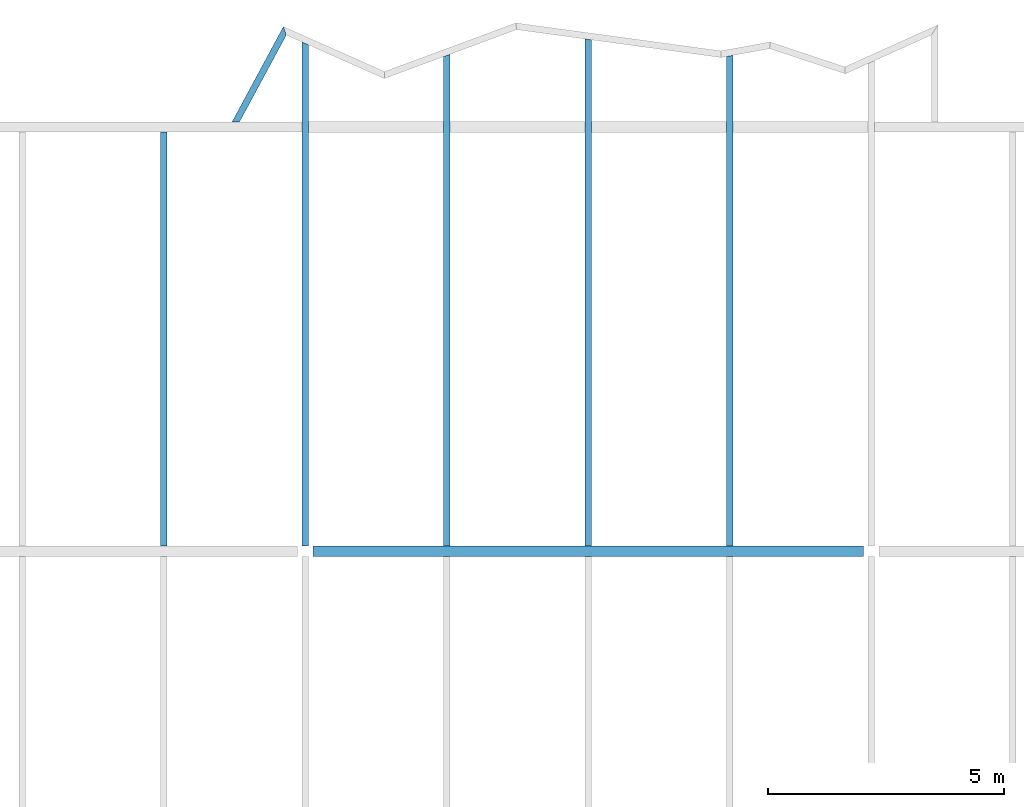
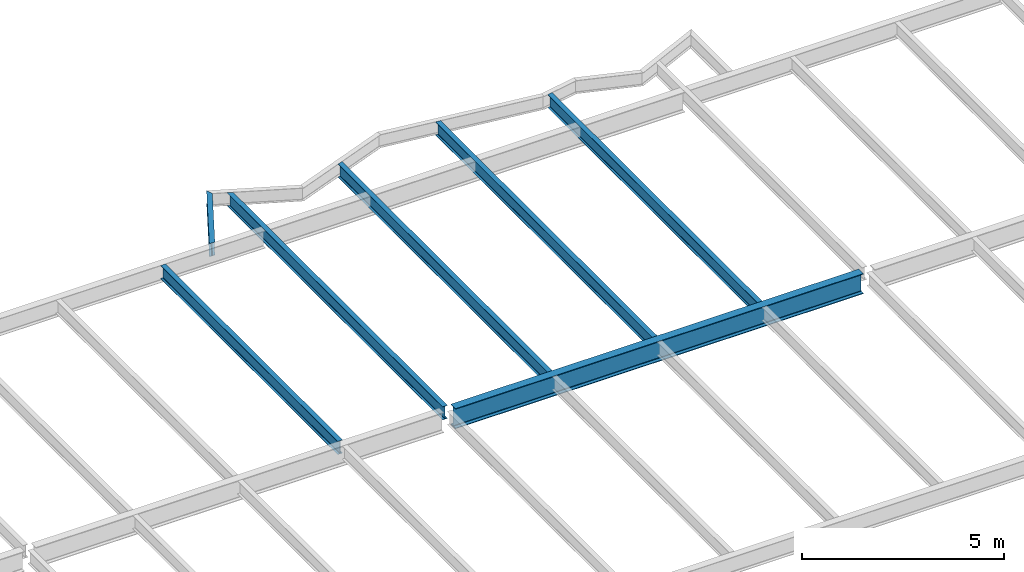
# One storey, part 7 of 21: 7 beams.
"""IFC2X3 building model written with IfcOpenShell, lengths in millimetres."""

from ifc_helpers import new_model, si_unit, origin, place, context, project, spatial, faceted_brep, material, element, save


model = new_model("IFC2X3")

# Units and contexts
context_of_model = context(None, 3, precision=1e-05, world=origin())
ifc_project = project(units=[si_unit("LENGTHUNIT", "METRE", prefix="MILLI")], contexts=[context_of_model])

# Building, storey
building = spatial("IfcBuilding", under=ifc_project, Name="Building", CompositionType="ELEMENT")
storey = spatial("IfcBuildingStorey", under=building, Name="FL3-FRM", CompositionType="ELEMENT")

# Beams
ifc_material_1 = material(Name="A992")
beam_1_placement = place(None, origin())
element("IfcBeam", 1, at=beam_1_placement, inside=storey, material=ifc_material_1, Name="B407", context=context_of_model, shape_type="Brep", body=[
    faceted_brep([(-27070.0, 35895.5, 8474.0), (-26930.0, 35895.5, 8474.0), (-26930.0, 27114.5, 8474.0), (-27070.0, 27114.5, 8474.0), (-26930.0, 35895.5, 8482.8), (-26930.0, 27114.5, 8482.8), (-26986.6, 35895.5, 8482.8), (-26986.6, 27114.5, 8482.8), (-26989.2, 35895.5, 8483.15), (-26989.2, 27114.5, 8483.15), (-26991.7, 35895.5, 8484.17), (-26991.7, 27114.5, 8484.17), (-26993.8, 35895.5, 8485.79), (-26993.8, 27114.5, 8485.79), (-26995.4, 35895.5, 8487.9), (-26995.4, 27114.5, 8487.9), (-26996.5, 35895.5, 8490.36), (-26996.5, 27114.5, 8490.36), (-26996.8, 35895.5, 8493.0), (-26996.8, 27114.5, 8493.0), (-26996.8, 35895.5, 8854.0), (-26996.8, 27114.5, 8854.0), (-26996.5, 35895.5, 8856.64), (-26996.5, 27114.5, 8856.64), (-26995.4, 35895.5, 8859.1), (-26995.4, 27114.5, 8859.1), (-26993.8, 35895.5, 8861.21), (-26993.8, 27114.5, 8861.21), (-26991.7, 35895.5, 8862.83), (-26991.7, 27114.5, 8862.83), (-26989.2, 35895.5, 8863.85), (-26989.2, 27114.5, 8863.85), (-26986.6, 35895.5, 8864.2), (-26986.6, 27114.5, 8864.2), (-26930.0, 35895.5, 8864.2), (-26930.0, 27114.5, 8864.2), (-26930.0, 35895.5, 8873.0), (-26930.0, 27114.5, 8873.0), (-27070.0, 35895.5, 8873.0), (-27070.0, 27114.5, 8873.0), (-27070.0, 35895.5, 8864.2), (-27070.0, 27114.5, 8864.2), (-27013.4, 35895.5, 8864.2), (-27013.4, 27114.5, 8864.2), (-27010.8, 35895.5, 8863.85), (-27010.8, 27114.5, 8863.85), (-27008.3, 35895.5, 8862.83), (-27008.3, 27114.5, 8862.83), (-27006.2, 35895.5, 8861.21), (-27006.2, 27114.5, 8861.21), (-27004.6, 35895.5, 8859.1), (-27004.6, 27114.5, 8859.1), (-27003.5, 35895.5, 8856.64), (-27003.5, 27114.5, 8856.64), (-27003.2, 35895.5, 8854.0), (-27003.2, 27114.5, 8854.0), (-27003.2, 35895.5, 8493.0), (-27003.2, 27114.5, 8493.0), (-27003.5, 35895.5, 8490.36), (-27003.5, 27114.5, 8490.36), (-27004.6, 35895.5, 8487.9), (-27004.6, 27114.5, 8487.9), (-27006.2, 35895.5, 8485.79), (-27006.2, 27114.5, 8485.79), (-27008.3, 35895.5, 8484.17), (-27008.3, 27114.5, 8484.17), (-27010.8, 35895.5, 8483.15), (-27010.8, 27114.5, 8483.15), (-27013.4, 35895.5, 8482.8), (-27013.4, 27114.5, 8482.8), (-27070.0, 35895.5, 8482.8), (-27070.0, 27114.5, 8482.8)], [[[0, 1, 2, 3]], [[1, 4, 5, 2]], [[4, 6, 7, 5]], [[6, 8, 9, 7]], [[8, 10, 11, 9]], [[10, 12, 13, 11]], [[12, 14, 15, 13]], [[14, 16, 17, 15]], [[16, 18, 19, 17]], [[18, 20, 21, 19]], [[20, 22, 23, 21]], [[22, 24, 25, 23]], [[24, 26, 27, 25]], [[26, 28, 29, 27]], [[28, 30, 31, 29]], [[30, 32, 33, 31]], [[32, 34, 35, 33]], [[34, 36, 37, 35]], [[36, 38, 39, 37]], [[38, 40, 41, 39]], [[40, 42, 43, 41]], [[42, 44, 45, 43]], [[44, 46, 47, 45]], [[46, 48, 49, 47]], [[48, 50, 51, 49]], [[50, 52, 53, 51]], [[52, 54, 55, 53]], [[54, 56, 57, 55]], [[56, 58, 59, 57]], [[58, 60, 61, 59]], [[60, 62, 63, 61]], [[62, 64, 65, 63]], [[64, 66, 67, 65]], [[66, 68, 69, 67]], [[68, 70, 71, 69]], [[70, 0, 3, 71]], [[0, 70, 68, 66, 64, 62, 60, 58, 56, 54, 52, 50, 48, 46, 44, 42, 40, 38, 36, 34, 32, 30, 28, 26, 24, 22, 20, 18, 16, 14, 12, 10, 8, 6, 4, 1]], [[3, 2, 5, 7, 9, 11, 13, 15, 17, 19, 21, 23, 25, 27, 29, 31, 33, 35, 37, 39, 41, 43, 45, 47, 49, 51, 53, 55, 57, 59, 61, 63, 65, 67, 69, 71]]]),
])
ifc_material_2 = material(Name="A992")
beam_2_placement = place(None, origin())
element("IfcBeam", 2, at=beam_2_placement, inside=storey, material=ifc_material_2, Name="Column458", context=context_of_model, shape_type="Brep", body=[
    faceted_brep([(-23836.5, 26885.5, 8261.0), (-23836.5, 27114.5, 8261.0), (-12163.5, 27114.5, 8261.0), (-12163.5, 26885.5, 8261.0), (-23836.5, 27114.5, 8280.6), (-12163.5, 27114.5, 8280.6), (-23836.5, 27018.6, 8280.6), (-12163.5, 27018.6, 8280.6), (-23836.5, 27015.4, 8281.03), (-12163.5, 27015.4, 8281.03), (-23836.5, 27012.3, 8282.3), (-12163.5, 27012.3, 8282.3), (-23836.5, 27009.7, 8284.32), (-12163.5, 27009.7, 8284.32), (-23836.5, 27007.7, 8286.95), (-12163.5, 27007.7, 8286.95), (-23836.5, 27006.4, 8290.01), (-12163.5, 27006.4, 8290.01), (-23836.5, 27005.9, 8293.3), (-12163.5, 27005.9, 8293.3), (-23836.5, 27005.9, 8840.7), (-12163.5, 27005.9, 8840.7), (-23836.5, 27006.4, 8843.99), (-12163.5, 27006.4, 8843.99), (-23836.5, 27007.7, 8847.05), (-12163.5, 27007.7, 8847.05), (-23836.5, 27009.7, 8849.68), (-12163.5, 27009.7, 8849.68), (-23836.5, 27012.3, 8851.7), (-12163.5, 27012.3, 8851.7), (-23836.5, 27015.4, 8852.97), (-12163.5, 27015.4, 8852.97), (-23836.5, 27018.6, 8853.4), (-12163.5, 27018.6, 8853.4), (-23836.5, 27114.5, 8853.4), (-12163.5, 27114.5, 8853.4), (-23836.5, 27114.5, 8873.0), (-12163.5, 27114.5, 8873.0), (-23836.5, 26885.5, 8873.0), (-12163.5, 26885.5, 8873.0), (-23836.5, 26885.5, 8853.4), (-12163.5, 26885.5, 8853.4), (-23836.5, 26981.4, 8853.4), (-12163.5, 26981.4, 8853.4), (-23836.5, 26984.6, 8852.97), (-12163.5, 26984.6, 8852.97), (-23836.5, 26987.7, 8851.7), (-12163.5, 26987.7, 8851.7), (-23836.5, 26990.3, 8849.68), (-12163.5, 26990.3, 8849.68), (-23836.5, 26992.3, 8847.05), (-12163.5, 26992.3, 8847.05), (-23836.5, 26993.6, 8843.99), (-12163.5, 26993.6, 8843.99), (-23836.5, 26994.1, 8840.7), (-12163.5, 26994.1, 8840.7), (-23836.5, 26994.1, 8293.3), (-12163.5, 26994.1, 8293.3), (-23836.5, 26993.6, 8290.01), (-12163.5, 26993.6, 8290.01), (-23836.5, 26992.3, 8286.95), (-12163.5, 26992.3, 8286.95), (-23836.5, 26990.3, 8284.32), (-12163.5, 26990.3, 8284.32), (-23836.5, 26987.7, 8282.3), (-12163.5, 26987.7, 8282.3), (-23836.5, 26984.6, 8281.03), (-12163.5, 26984.6, 8281.03), (-23836.5, 26981.4, 8280.6), (-12163.5, 26981.4, 8280.6), (-23836.5, 26885.5, 8280.6), (-12163.5, 26885.5, 8280.6)], [[[0, 1, 2, 3]], [[1, 4, 5, 2]], [[4, 6, 7, 5]], [[6, 8, 9, 7]], [[8, 10, 11, 9]], [[10, 12, 13, 11]], [[12, 14, 15, 13]], [[14, 16, 17, 15]], [[16, 18, 19, 17]], [[18, 20, 21, 19]], [[20, 22, 23, 21]], [[22, 24, 25, 23]], [[24, 26, 27, 25]], [[26, 28, 29, 27]], [[28, 30, 31, 29]], [[30, 32, 33, 31]], [[32, 34, 35, 33]], [[34, 36, 37, 35]], [[36, 38, 39, 37]], [[38, 40, 41, 39]], [[40, 42, 43, 41]], [[42, 44, 45, 43]], [[44, 46, 47, 45]], [[46, 48, 49, 47]], [[48, 50, 51, 49]], [[50, 52, 53, 51]], [[52, 54, 55, 53]], [[54, 56, 57, 55]], [[56, 58, 59, 57]], [[58, 60, 61, 59]], [[60, 62, 63, 61]], [[62, 64, 65, 63]], [[64, 66, 67, 65]], [[66, 68, 69, 67]], [[68, 70, 71, 69]], [[70, 0, 3, 71]], [[0, 70, 68, 66, 64, 62, 60, 58, 56, 54, 52, 50, 48, 46, 44, 42, 40, 38, 36, 34, 32, 30, 28, 26, 24, 22, 20, 18, 16, 14, 12, 10, 8, 6, 4, 1]], [[3, 2, 5, 7, 9, 11, 13, 15, 17, 19, 21, 23, 25, 27, 29, 31, 33, 35, 37, 39, 41, 43, 45, 47, 49, 51, 53, 55, 57, 59, 61, 63, 65, 67, 69, 71]]]),
])
ifc_material_3 = material(Name="A992")
beam_3_placement = place(None, origin())
element("IfcBeam", 3, at=beam_3_placement, inside=storey, material=ifc_material_3, Name="B1070", context=context_of_model, shape_type="Brep", body=[
    faceted_brep([(-15070.0, 37491.8, 8474.0), (-14930.0, 37517.3, 8474.0), (-14930.0, 27114.5, 8474.0), (-15070.0, 27114.5, 8474.0), (-14930.0, 37517.3, 8482.8), (-14930.0, 27114.5, 8482.8), (-14986.6, 37507.0, 8482.8), (-14986.6, 27114.5, 8482.8), (-14988.1, 37506.7, 8482.9), (-14988.1, 27114.5, 8482.9), (-14989.5, 37506.5, 8483.21), (-14989.5, 27114.5, 8483.21), (-14990.8, 37506.2, 8483.72), (-14990.8, 27114.5, 8483.72), (-14992.1, 37506.0, 8484.42), (-14992.1, 27114.5, 8484.42), (-14993.3, 37505.8, 8485.29), (-14993.3, 27114.5, 8485.29), (-14994.3, 37505.6, 8486.32), (-14994.3, 27114.5, 8486.32), (-14995.2, 37505.4, 8487.48), (-14995.2, 27114.5, 8487.49), (-14995.9, 37505.3, 8488.76), (-14995.9, 27114.5, 8488.76), (-14996.4, 37505.2, 8490.13), (-14996.4, 27114.5, 8490.13), (-14996.7, 37505.2, 8491.55), (-14996.7, 27114.5, 8491.55), (-14996.8, 37505.1, 8493.0), (-14996.8, 27114.5, 8493.0), (-14996.8, 37505.1, 8854.0), (-14996.8, 27114.5, 8854.0), (-14996.7, 37505.2, 8855.45), (-14996.7, 27114.5, 8855.45), (-14996.4, 37505.2, 8856.87), (-14996.4, 27114.5, 8856.87), (-14995.9, 37505.3, 8858.24), (-14995.9, 27114.5, 8858.24), (-14995.2, 37505.4, 8859.52), (-14995.2, 27114.5, 8859.51), (-14994.3, 37505.6, 8860.68), (-14994.3, 27114.5, 8860.68), (-14993.3, 37505.8, 8861.71), (-14993.3, 27114.5, 8861.71), (-14992.1, 37506.0, 8862.58), (-14992.1, 27114.5, 8862.58), (-14990.8, 37506.2, 8863.28), (-14990.8, 27114.5, 8863.28), (-14989.5, 37506.5, 8863.79), (-14989.5, 27114.5, 8863.79), (-14988.1, 37506.7, 8864.1), (-14988.1, 27114.5, 8864.1), (-14986.6, 37507.0, 8864.2), (-14986.6, 27114.5, 8864.2), (-14930.0, 37517.3, 8864.2), (-14930.0, 27114.5, 8864.2), (-14930.0, 37517.3, 8873.0), (-14930.0, 27114.5, 8873.0), (-15070.0, 37491.8, 8873.0), (-15070.0, 27114.5, 8873.0), (-15070.0, 37491.8, 8864.2), (-15070.0, 27114.5, 8864.2), (-15013.4, 37502.1, 8864.2), (-15013.4, 27114.5, 8864.2), (-15011.9, 37502.4, 8864.1), (-15011.9, 27114.5, 8864.1), (-15010.5, 37502.6, 8863.79), (-15010.5, 27114.5, 8863.79), (-15009.2, 37502.9, 8863.28), (-15009.2, 27114.5, 8863.28), (-15007.9, 37503.1, 8862.58), (-15007.9, 27114.5, 8862.58), (-15006.7, 37503.3, 8861.71), (-15006.7, 27114.5, 8861.71), (-15005.7, 37503.5, 8860.68), (-15005.7, 27114.5, 8860.68), (-15004.8, 37503.7, 8859.52), (-15004.8, 27114.5, 8859.51), (-15004.1, 37503.8, 8858.24), (-15004.1, 27114.5, 8858.24), (-15003.6, 37503.9, 8856.87), (-15003.6, 27114.5, 8856.87), (-15003.3, 37504.0, 8855.45), (-15003.3, 27114.5, 8855.45), (-15003.2, 37504.0, 8854.0), (-15003.2, 27114.5, 8854.0), (-15003.2, 37504.0, 8493.0), (-15003.2, 27114.5, 8493.0), (-15003.3, 37504.0, 8491.55), (-15003.3, 27114.5, 8491.55), (-15003.6, 37503.9, 8490.13), (-15003.6, 27114.5, 8490.13), (-15004.1, 37503.8, 8488.76), (-15004.1, 27114.5, 8488.76), (-15004.8, 37503.7, 8487.48), (-15004.8, 27114.5, 8487.49), (-15005.7, 37503.5, 8486.32), (-15005.7, 27114.5, 8486.32), (-15006.7, 37503.3, 8485.29), (-15006.7, 27114.5, 8485.29), (-15007.9, 37503.1, 8484.42), (-15007.9, 27114.5, 8484.42), (-15009.2, 37502.9, 8483.72), (-15009.2, 27114.5, 8483.72), (-15010.5, 37502.6, 8483.21), (-15010.5, 27114.5, 8483.21), (-15011.9, 37502.4, 8482.9), (-15011.9, 27114.5, 8482.9), (-15013.4, 37502.1, 8482.8), (-15013.4, 27114.5, 8482.8), (-15070.0, 37491.8, 8482.8), (-15070.0, 27114.5, 8482.8)], [[[0, 1, 2, 3]], [[1, 4, 5, 2]], [[4, 6, 7, 5]], [[6, 8, 9, 7]], [[8, 10, 11, 9]], [[10, 12, 13, 11]], [[12, 14, 15, 13]], [[14, 16, 17, 15]], [[16, 18, 19, 17]], [[18, 20, 21, 19]], [[20, 22, 23, 21]], [[22, 24, 25, 23]], [[24, 26, 27, 25]], [[26, 28, 29, 27]], [[28, 30, 31, 29]], [[30, 32, 33, 31]], [[32, 34, 35, 33]], [[34, 36, 37, 35]], [[36, 38, 39, 37]], [[38, 40, 41, 39]], [[40, 42, 43, 41]], [[42, 44, 45, 43]], [[44, 46, 47, 45]], [[46, 48, 49, 47]], [[48, 50, 51, 49]], [[50, 52, 53, 51]], [[52, 54, 55, 53]], [[54, 56, 57, 55]], [[56, 58, 59, 57]], [[58, 60, 61, 59]], [[60, 62, 63, 61]], [[62, 64, 65, 63]], [[64, 66, 67, 65]], [[66, 68, 69, 67]], [[68, 70, 71, 69]], [[70, 72, 73, 71]], [[72, 74, 75, 73]], [[74, 76, 77, 75]], [[76, 78, 79, 77]], [[78, 80, 81, 79]], [[80, 82, 83, 81]], [[82, 84, 85, 83]], [[84, 86, 87, 85]], [[86, 88, 89, 87]], [[88, 90, 91, 89]], [[90, 92, 93, 91]], [[92, 94, 95, 93]], [[94, 96, 97, 95]], [[96, 98, 99, 97]], [[98, 100, 101, 99]], [[100, 102, 103, 101]], [[102, 104, 105, 103]], [[104, 106, 107, 105]], [[106, 108, 109, 107]], [[108, 110, 111, 109]], [[110, 0, 3, 111]], [[0, 110, 108, 106, 104, 102, 100, 98, 96, 94, 92, 90, 88, 86, 84, 82, 80, 78, 76, 74, 72, 70, 68, 66, 64, 62, 60, 58, 56, 54, 52, 50, 48, 46, 44, 42, 40, 38, 36, 34, 32, 30, 28, 26, 24, 22, 20, 18, 16, 14, 12, 10, 8, 6, 4, 1]], [[3, 2, 5, 7, 9, 11, 13, 15, 17, 19, 21, 23, 25, 27, 29, 31, 33, 35, 37, 39, 41, 43, 45, 47, 49, 51, 53, 55, 57, 59, 61, 63, 65, 67, 69, 71, 73, 75, 77, 79, 81, 83, 85, 87, 89, 91, 93, 95, 97, 99, 101, 103, 105, 107, 109, 111]]]),
])
ifc_material_4 = material(Name="A992")
beam_4_placement = place(None, origin())
element("IfcBeam", 4, at=beam_4_placement, inside=storey, material=ifc_material_4, Name="B1072", context=context_of_model, shape_type="Brep", body=[
    faceted_brep([(-18070.0, 37864.7, 8474.0), (-17930.0, 37845.6, 8474.0), (-17930.0, 27114.5, 8474.0), (-18070.0, 27114.5, 8474.0), (-17930.0, 37845.6, 8482.8), (-17930.0, 27114.5, 8482.8), (-17986.6, 37853.3, 8482.8), (-17986.6, 27114.5, 8482.8), (-17988.1, 37853.5, 8482.9), (-17988.1, 27114.5, 8482.9), (-17989.5, 37853.7, 8483.21), (-17989.5, 27114.5, 8483.21), (-17990.8, 37853.9, 8483.72), (-17990.8, 27114.5, 8483.72), (-17992.1, 37854.1, 8484.42), (-17992.1, 27114.5, 8484.42), (-17993.3, 37854.2, 8485.29), (-17993.3, 27114.5, 8485.29), (-17994.3, 37854.4, 8486.32), (-17994.3, 27114.5, 8486.32), (-17995.2, 37854.5, 8487.48), (-17995.2, 27114.5, 8487.49), (-17995.9, 37854.6, 8488.76), (-17995.9, 27114.5, 8488.76), (-17996.4, 37854.7, 8490.13), (-17996.4, 27114.5, 8490.13), (-17996.7, 37854.7, 8491.55), (-17996.7, 27114.5, 8491.55), (-17996.8, 37854.7, 8493.0), (-17996.8, 27114.5, 8493.0), (-17996.8, 37854.7, 8854.0), (-17996.8, 27114.5, 8854.0), (-17996.7, 37854.7, 8855.45), (-17996.7, 27114.5, 8855.45), (-17996.4, 37854.7, 8856.87), (-17996.4, 27114.5, 8856.87), (-17995.9, 37854.6, 8858.24), (-17995.9, 27114.5, 8858.24), (-17995.2, 37854.5, 8859.52), (-17995.2, 27114.5, 8859.51), (-17994.3, 37854.4, 8860.68), (-17994.3, 27114.5, 8860.68), (-17993.3, 37854.2, 8861.71), (-17993.3, 27114.5, 8861.71), (-17992.1, 37854.1, 8862.58), (-17992.1, 27114.5, 8862.58), (-17990.8, 37853.9, 8863.28), (-17990.8, 27114.5, 8863.28), (-17989.5, 37853.7, 8863.79), (-17989.5, 27114.5, 8863.79), (-17988.1, 37853.5, 8864.1), (-17988.1, 27114.5, 8864.1), (-17986.6, 37853.3, 8864.2), (-17986.6, 27114.5, 8864.2), (-17930.0, 37845.6, 8864.2), (-17930.0, 27114.5, 8864.2), (-17930.0, 37845.6, 8873.0), (-17930.0, 27114.5, 8873.0), (-18070.0, 37864.7, 8873.0), (-18070.0, 27114.5, 8873.0), (-18070.0, 37864.7, 8864.2), (-18070.0, 27114.5, 8864.2), (-18013.4, 37857.0, 8864.2), (-18013.4, 27114.5, 8864.2), (-18011.9, 37856.8, 8864.1), (-18011.9, 27114.5, 8864.1), (-18010.5, 37856.6, 8863.79), (-18010.5, 27114.5, 8863.79), (-18009.2, 37856.4, 8863.28), (-18009.2, 27114.5, 8863.28), (-18007.9, 37856.2, 8862.58), (-18007.9, 27114.5, 8862.58), (-18006.7, 37856.1, 8861.71), (-18006.7, 27114.5, 8861.71), (-18005.7, 37855.9, 8860.68), (-18005.7, 27114.5, 8860.68), (-18004.8, 37855.8, 8859.52), (-18004.8, 27114.5, 8859.51), (-18004.1, 37855.7, 8858.24), (-18004.1, 27114.5, 8858.24), (-18003.6, 37855.6, 8856.87), (-18003.6, 27114.5, 8856.87), (-18003.3, 37855.6, 8855.45), (-18003.3, 27114.5, 8855.45), (-18003.2, 37855.6, 8854.0), (-18003.2, 27114.5, 8854.0), (-18003.2, 37855.6, 8493.0), (-18003.2, 27114.5, 8493.0), (-18003.3, 37855.6, 8491.55), (-18003.3, 27114.5, 8491.55), (-18003.6, 37855.6, 8490.13), (-18003.6, 27114.5, 8490.13), (-18004.1, 37855.7, 8488.76), (-18004.1, 27114.5, 8488.76), (-18004.8, 37855.8, 8487.48), (-18004.8, 27114.5, 8487.49), (-18005.7, 37855.9, 8486.32), (-18005.7, 27114.5, 8486.32), (-18006.7, 37856.1, 8485.29), (-18006.7, 27114.5, 8485.29), (-18007.9, 37856.2, 8484.42), (-18007.9, 27114.5, 8484.42), (-18009.2, 37856.4, 8483.72), (-18009.2, 27114.5, 8483.72), (-18010.5, 37856.6, 8483.21), (-18010.5, 27114.5, 8483.21), (-18011.9, 37856.8, 8482.9), (-18011.9, 27114.5, 8482.9), (-18013.4, 37857.0, 8482.8), (-18013.4, 27114.5, 8482.8), (-18070.0, 37864.7, 8482.8), (-18070.0, 27114.5, 8482.8)], [[[0, 1, 2, 3]], [[1, 4, 5, 2]], [[4, 6, 7, 5]], [[6, 8, 9, 7]], [[8, 10, 11, 9]], [[10, 12, 13, 11]], [[12, 14, 15, 13]], [[14, 16, 17, 15]], [[16, 18, 19, 17]], [[18, 20, 21, 19]], [[20, 22, 23, 21]], [[22, 24, 25, 23]], [[24, 26, 27, 25]], [[26, 28, 29, 27]], [[28, 30, 31, 29]], [[30, 32, 33, 31]], [[32, 34, 35, 33]], [[34, 36, 37, 35]], [[36, 38, 39, 37]], [[38, 40, 41, 39]], [[40, 42, 43, 41]], [[42, 44, 45, 43]], [[44, 46, 47, 45]], [[46, 48, 49, 47]], [[48, 50, 51, 49]], [[50, 52, 53, 51]], [[52, 54, 55, 53]], [[54, 56, 57, 55]], [[56, 58, 59, 57]], [[58, 60, 61, 59]], [[60, 62, 63, 61]], [[62, 64, 65, 63]], [[64, 66, 67, 65]], [[66, 68, 69, 67]], [[68, 70, 71, 69]], [[70, 72, 73, 71]], [[72, 74, 75, 73]], [[74, 76, 77, 75]], [[76, 78, 79, 77]], [[78, 80, 81, 79]], [[80, 82, 83, 81]], [[82, 84, 85, 83]], [[84, 86, 87, 85]], [[86, 88, 89, 87]], [[88, 90, 91, 89]], [[90, 92, 93, 91]], [[92, 94, 95, 93]], [[94, 96, 97, 95]], [[96, 98, 99, 97]], [[98, 100, 101, 99]], [[100, 102, 103, 101]], [[102, 104, 105, 103]], [[104, 106, 107, 105]], [[106, 108, 109, 107]], [[108, 110, 111, 109]], [[110, 0, 3, 111]], [[0, 110, 108, 106, 104, 102, 100, 98, 96, 94, 92, 90, 88, 86, 84, 82, 80, 78, 76, 74, 72, 70, 68, 66, 64, 62, 60, 58, 56, 54, 52, 50, 48, 46, 44, 42, 40, 38, 36, 34, 32, 30, 28, 26, 24, 22, 20, 18, 16, 14, 12, 10, 8, 6, 4, 1]], [[3, 2, 5, 7, 9, 11, 13, 15, 17, 19, 21, 23, 25, 27, 29, 31, 33, 35, 37, 39, 41, 43, 45, 47, 49, 51, 53, 55, 57, 59, 61, 63, 65, 67, 69, 71, 73, 75, 77, 79, 81, 83, 85, 87, 89, 91, 93, 95, 97, 99, 101, 103, 105, 107, 109, 111]]]),
])
ifc_material_5 = material(Name="A992")
beam_5_placement = place(None, origin())
element("IfcBeam", 5, at=beam_5_placement, inside=storey, material=ifc_material_5, Name="B1074", context=context_of_model, shape_type="Brep", body=[
    faceted_brep([(-21070.0, 37487.8, 8474.0), (-20930.0, 37539.6, 8474.0), (-20930.0, 27114.5, 8474.0), (-21070.0, 27114.5, 8474.0), (-20930.0, 37539.6, 8482.8), (-20930.0, 27114.5, 8482.8), (-20986.6, 37518.6, 8482.8), (-20986.6, 27114.5, 8482.8), (-20988.0, 37518.1, 8482.9), (-20988.1, 27114.5, 8482.9), (-20989.5, 37517.6, 8483.21), (-20989.5, 27114.5, 8483.21), (-20990.8, 37517.1, 8483.72), (-20990.8, 27114.5, 8483.72), (-20992.1, 37516.6, 8484.41), (-20992.1, 27114.5, 8484.42), (-20993.3, 37516.2, 8485.29), (-20993.3, 27114.5, 8485.29), (-20994.3, 37515.8, 8486.32), (-20994.3, 27114.5, 8486.32), (-20995.2, 37515.5, 8487.48), (-20995.2, 27114.5, 8487.49), (-20995.9, 37515.2, 8488.76), (-20995.9, 27114.5, 8488.76), (-20996.4, 37515.0, 8490.12), (-20996.4, 27114.5, 8490.13), (-20996.7, 37514.9, 8491.55), (-20996.7, 27114.5, 8491.55), (-20996.8, 37514.9, 8493.0), (-20996.8, 27114.5, 8493.0), (-20996.8, 37514.9, 8854.0), (-20996.8, 27114.5, 8854.0), (-20996.7, 37514.9, 8855.45), (-20996.7, 27114.5, 8855.45), (-20996.4, 37515.0, 8856.88), (-20996.4, 27114.5, 8856.87), (-20995.9, 37515.2, 8858.24), (-20995.9, 27114.5, 8858.24), (-20995.2, 37515.5, 8859.52), (-20995.2, 27114.5, 8859.51), (-20994.3, 37515.8, 8860.68), (-20994.3, 27114.5, 8860.68), (-20993.3, 37516.2, 8861.71), (-20993.3, 27114.5, 8861.71), (-20992.1, 37516.6, 8862.59), (-20992.1, 27114.5, 8862.58), (-20990.8, 37517.1, 8863.28), (-20990.8, 27114.5, 8863.28), (-20989.5, 37517.6, 8863.79), (-20989.5, 27114.5, 8863.79), (-20988.0, 37518.1, 8864.1), (-20988.1, 27114.5, 8864.1), (-20986.6, 37518.6, 8864.2), (-20986.6, 27114.5, 8864.2), (-20930.0, 37539.6, 8864.2), (-20930.0, 27114.5, 8864.2), (-20930.0, 37539.6, 8873.0), (-20930.0, 27114.5, 8873.0), (-21070.0, 37487.8, 8873.0), (-21070.0, 27114.5, 8873.0), (-21070.0, 37487.8, 8864.2), (-21070.0, 27114.5, 8864.2), (-21013.4, 37508.7, 8864.2), (-21013.4, 27114.5, 8864.2), (-21012.0, 37509.3, 8864.1), (-21011.9, 27114.5, 8864.1), (-21010.5, 37509.8, 8863.79), (-21010.5, 27114.5, 8863.79), (-21009.2, 37510.3, 8863.28), (-21009.2, 27114.5, 8863.28), (-21007.9, 37510.8, 8862.59), (-21007.9, 27114.5, 8862.58), (-21006.7, 37511.2, 8861.71), (-21006.7, 27114.5, 8861.71), (-21005.7, 37511.6, 8860.68), (-21005.7, 27114.5, 8860.68), (-21004.8, 37511.9, 8859.52), (-21004.8, 27114.5, 8859.51), (-21004.1, 37512.2, 8858.24), (-21004.1, 27114.5, 8858.24), (-21003.6, 37512.3, 8856.88), (-21003.6, 27114.5, 8856.87), (-21003.3, 37512.5, 8855.45), (-21003.3, 27114.5, 8855.45), (-21003.2, 37512.5, 8854.0), (-21003.2, 27114.5, 8854.0), (-21003.2, 37512.5, 8493.0), (-21003.2, 27114.5, 8493.0), (-21003.3, 37512.5, 8491.55), (-21003.3, 27114.5, 8491.55), (-21003.6, 37512.3, 8490.12), (-21003.6, 27114.5, 8490.13), (-21004.1, 37512.2, 8488.76), (-21004.1, 27114.5, 8488.76), (-21004.8, 37511.9, 8487.48), (-21004.8, 27114.5, 8487.49), (-21005.7, 37511.6, 8486.32), (-21005.7, 27114.5, 8486.32), (-21006.7, 37511.2, 8485.29), (-21006.7, 27114.5, 8485.29), (-21007.9, 37510.8, 8484.41), (-21007.9, 27114.5, 8484.42), (-21009.2, 37510.3, 8483.72), (-21009.2, 27114.5, 8483.72), (-21010.5, 37509.8, 8483.21), (-21010.5, 27114.5, 8483.21), (-21012.0, 37509.3, 8482.9), (-21011.9, 27114.5, 8482.9), (-21013.4, 37508.7, 8482.8), (-21013.4, 27114.5, 8482.8), (-21070.0, 37487.8, 8482.8), (-21070.0, 27114.5, 8482.8)], [[[0, 1, 2, 3]], [[1, 4, 5, 2]], [[4, 6, 7, 5]], [[6, 8, 9, 7]], [[8, 10, 11, 9]], [[10, 12, 13, 11]], [[12, 14, 15, 13]], [[14, 16, 17, 15]], [[16, 18, 19, 17]], [[18, 20, 21, 19]], [[20, 22, 23, 21]], [[22, 24, 25, 23]], [[24, 26, 27, 25]], [[26, 28, 29, 27]], [[28, 30, 31, 29]], [[30, 32, 33, 31]], [[32, 34, 35, 33]], [[34, 36, 37, 35]], [[36, 38, 39, 37]], [[38, 40, 41, 39]], [[40, 42, 43, 41]], [[42, 44, 45, 43]], [[44, 46, 47, 45]], [[46, 48, 49, 47]], [[48, 50, 51, 49]], [[50, 52, 53, 51]], [[52, 54, 55, 53]], [[54, 56, 57, 55]], [[56, 58, 59, 57]], [[58, 60, 61, 59]], [[60, 62, 63, 61]], [[62, 64, 65, 63]], [[64, 66, 67, 65]], [[66, 68, 69, 67]], [[68, 70, 71, 69]], [[70, 72, 73, 71]], [[72, 74, 75, 73]], [[74, 76, 77, 75]], [[76, 78, 79, 77]], [[78, 80, 81, 79]], [[80, 82, 83, 81]], [[82, 84, 85, 83]], [[84, 86, 87, 85]], [[86, 88, 89, 87]], [[88, 90, 91, 89]], [[90, 92, 93, 91]], [[92, 94, 95, 93]], [[94, 96, 97, 95]], [[96, 98, 99, 97]], [[98, 100, 101, 99]], [[100, 102, 103, 101]], [[102, 104, 105, 103]], [[104, 106, 107, 105]], [[106, 108, 109, 107]], [[108, 110, 111, 109]], [[110, 0, 3, 111]], [[0, 110, 108, 106, 104, 102, 100, 98, 96, 94, 92, 90, 88, 86, 84, 82, 80, 78, 76, 74, 72, 70, 68, 66, 64, 62, 60, 58, 56, 54, 52, 50, 48, 46, 44, 42, 40, 38, 36, 34, 32, 30, 28, 26, 24, 22, 20, 18, 16, 14, 12, 10, 8, 6, 4, 1]], [[3, 2, 5, 7, 9, 11, 13, 15, 17, 19, 21, 23, 25, 27, 29, 31, 33, 35, 37, 39, 41, 43, 45, 47, 49, 51, 53, 55, 57, 59, 61, 63, 65, 67, 69, 71, 73, 75, 77, 79, 81, 83, 85, 87, 89, 91, 93, 95, 97, 99, 101, 103, 105, 107, 109, 111]]]),
])
ifc_material_6 = material(Name="A992")
beam_6_placement = place(None, origin())
element("IfcBeam", 6, at=beam_6_placement, inside=storey, material=ifc_material_6, Name="B1076", context=context_of_model, shape_type="Brep", body=[
    faceted_brep([(-24070.0, 37798.8, 8474.0), (-23930.0, 37736.5, 8474.0), (-23930.0, 27114.5, 8474.0), (-24070.0, 27114.5, 8474.0), (-23930.0, 37736.5, 8482.8), (-23930.0, 27114.5, 8482.8), (-23986.6, 37761.7, 8482.8), (-23986.6, 27114.5, 8482.8), (-23988.0, 37762.3, 8482.9), (-23988.1, 27114.5, 8482.9), (-23989.5, 37763.0, 8483.21), (-23989.5, 27114.5, 8483.21), (-23990.8, 37763.6, 8483.72), (-23990.8, 27114.5, 8483.72), (-23992.1, 37764.1, 8484.41), (-23992.1, 27114.5, 8484.42), (-23993.3, 37764.7, 8485.28), (-23993.3, 27114.5, 8485.29), (-23994.3, 37765.1, 8486.32), (-23994.3, 27114.5, 8486.32), (-23995.2, 37765.5, 8487.47), (-23995.2, 27114.5, 8487.49), (-23995.9, 37765.8, 8488.76), (-23995.9, 27114.5, 8488.76), (-23996.4, 37766.0, 8490.12), (-23996.4, 27114.5, 8490.13), (-23996.7, 37766.2, 8491.54), (-23996.7, 27114.5, 8491.55), (-23996.8, 37766.2, 8493.0), (-23996.8, 27114.5, 8493.0), (-23996.8, 37766.2, 8854.0), (-23996.8, 27114.5, 8854.0), (-23996.7, 37766.2, 8855.46), (-23996.7, 27114.5, 8855.45), (-23996.4, 37766.0, 8856.88), (-23996.4, 27114.5, 8856.87), (-23995.9, 37765.8, 8858.24), (-23995.9, 27114.5, 8858.24), (-23995.2, 37765.5, 8859.53), (-23995.2, 27114.5, 8859.51), (-23994.3, 37765.1, 8860.68), (-23994.3, 27114.5, 8860.68), (-23993.3, 37764.7, 8861.72), (-23993.3, 27114.5, 8861.71), (-23992.1, 37764.1, 8862.59), (-23992.1, 27114.5, 8862.58), (-23990.8, 37763.6, 8863.28), (-23990.8, 27114.5, 8863.28), (-23989.5, 37763.0, 8863.79), (-23989.5, 27114.5, 8863.79), (-23988.0, 37762.3, 8864.1), (-23988.1, 27114.5, 8864.1), (-23986.6, 37761.7, 8864.2), (-23986.6, 27114.5, 8864.2), (-23930.0, 37736.5, 8864.2), (-23930.0, 27114.5, 8864.2), (-23930.0, 37736.5, 8873.0), (-23930.0, 27114.5, 8873.0), (-24070.0, 37798.8, 8873.0), (-24070.0, 27114.5, 8873.0), (-24070.0, 37798.8, 8864.2), (-24070.0, 27114.5, 8864.2), (-24013.4, 37773.6, 8864.2), (-24013.4, 27114.5, 8864.2), (-24012.0, 37773.0, 8864.1), (-24011.9, 27114.5, 8864.1), (-24010.5, 37772.3, 8863.79), (-24010.5, 27114.5, 8863.79), (-24009.2, 37771.7, 8863.28), (-24009.2, 27114.5, 8863.28), (-24007.9, 37771.2, 8862.59), (-24007.9, 27114.5, 8862.58), (-24006.7, 37770.6, 8861.72), (-24006.7, 27114.5, 8861.71), (-24005.7, 37770.2, 8860.68), (-24005.7, 27114.5, 8860.68), (-24004.8, 37769.8, 8859.53), (-24004.8, 27114.5, 8859.51), (-24004.1, 37769.5, 8858.24), (-24004.1, 27114.5, 8858.24), (-24003.6, 37769.3, 8856.88), (-24003.6, 27114.5, 8856.87), (-24003.3, 37769.1, 8855.46), (-24003.3, 27114.5, 8855.45), (-24003.2, 37769.1, 8854.0), (-24003.2, 27114.5, 8854.0), (-24003.2, 37769.1, 8493.0), (-24003.2, 27114.5, 8493.0), (-24003.3, 37769.1, 8491.54), (-24003.3, 27114.5, 8491.55), (-24003.6, 37769.3, 8490.12), (-24003.6, 27114.5, 8490.13), (-24004.1, 37769.5, 8488.76), (-24004.1, 27114.5, 8488.76), (-24004.8, 37769.8, 8487.47), (-24004.8, 27114.5, 8487.49), (-24005.7, 37770.2, 8486.32), (-24005.7, 27114.5, 8486.32), (-24006.7, 37770.6, 8485.28), (-24006.7, 27114.5, 8485.29), (-24007.9, 37771.2, 8484.41), (-24007.9, 27114.5, 8484.42), (-24009.2, 37771.7, 8483.72), (-24009.2, 27114.5, 8483.72), (-24010.5, 37772.3, 8483.21), (-24010.5, 27114.5, 8483.21), (-24012.0, 37773.0, 8482.9), (-24011.9, 27114.5, 8482.9), (-24013.4, 37773.6, 8482.8), (-24013.4, 27114.5, 8482.8), (-24070.0, 37798.8, 8482.8), (-24070.0, 27114.5, 8482.8)], [[[0, 1, 2, 3]], [[1, 4, 5, 2]], [[4, 6, 7, 5]], [[6, 8, 9, 7]], [[8, 10, 11, 9]], [[10, 12, 13, 11]], [[12, 14, 15, 13]], [[14, 16, 17, 15]], [[16, 18, 19, 17]], [[18, 20, 21, 19]], [[20, 22, 23, 21]], [[22, 24, 25, 23]], [[24, 26, 27, 25]], [[26, 28, 29, 27]], [[28, 30, 31, 29]], [[30, 32, 33, 31]], [[32, 34, 35, 33]], [[34, 36, 37, 35]], [[36, 38, 39, 37]], [[38, 40, 41, 39]], [[40, 42, 43, 41]], [[42, 44, 45, 43]], [[44, 46, 47, 45]], [[46, 48, 49, 47]], [[48, 50, 51, 49]], [[50, 52, 53, 51]], [[52, 54, 55, 53]], [[54, 56, 57, 55]], [[56, 58, 59, 57]], [[58, 60, 61, 59]], [[60, 62, 63, 61]], [[62, 64, 65, 63]], [[64, 66, 67, 65]], [[66, 68, 69, 67]], [[68, 70, 71, 69]], [[70, 72, 73, 71]], [[72, 74, 75, 73]], [[74, 76, 77, 75]], [[76, 78, 79, 77]], [[78, 80, 81, 79]], [[80, 82, 83, 81]], [[82, 84, 85, 83]], [[84, 86, 87, 85]], [[86, 88, 89, 87]], [[88, 90, 91, 89]], [[90, 92, 93, 91]], [[92, 94, 95, 93]], [[94, 96, 97, 95]], [[96, 98, 99, 97]], [[98, 100, 101, 99]], [[100, 102, 103, 101]], [[102, 104, 105, 103]], [[104, 106, 107, 105]], [[106, 108, 109, 107]], [[108, 110, 111, 109]], [[110, 0, 3, 111]], [[0, 110, 108, 106, 104, 102, 100, 98, 96, 94, 92, 90, 88, 86, 84, 82, 80, 78, 76, 74, 72, 70, 68, 66, 64, 62, 60, 58, 56, 54, 52, 50, 48, 46, 44, 42, 40, 38, 36, 34, 32, 30, 28, 26, 24, 22, 20, 18, 16, 14, 12, 10, 8, 6, 4, 1]], [[3, 2, 5, 7, 9, 11, 13, 15, 17, 19, 21, 23, 25, 27, 29, 31, 33, 35, 37, 39, 41, 43, 45, 47, 49, 51, 53, 55, 57, 59, 61, 63, 65, 67, 69, 71, 73, 75, 77, 79, 81, 83, 85, 87, 89, 91, 93, 95, 97, 99, 101, 103, 105, 107, 109, 111]]]),
])
ifc_material_7 = material(Name="A992")
beam_7_placement = place(None, origin())
element("IfcBeam", 7, at=beam_7_placement, inside=storey, material=ifc_material_7, Name="B1077", context=context_of_model, shape_type="Brep", body=[
    faceted_brep([(-25395.2, 36104.5, 8474.0), (-25554.2, 36104.5, 8474.0), (-24464.9, 38127.5, 8474.0), (-24403.2, 37946.8, 8474.0), (-25554.2, 36104.5, 8482.8), (-24464.9, 38127.5, 8482.8), (-25489.9, 36104.5, 8482.8), (-24440.0, 38054.5, 8482.8), (-25488.1, 36104.5, 8482.92), (-24439.3, 38052.4, 8482.9), (-25486.4, 36104.5, 8483.29), (-24438.6, 38050.4, 8483.28), (-25484.7, 36104.5, 8483.91), (-24437.9, 38048.5, 8483.9), (-25483.1, 36104.5, 8484.73), (-24437.3, 38046.8, 8484.71), (-25481.7, 36104.5, 8485.79), (-24436.8, 38045.1, 8485.79), (-25480.6, 36104.5, 8486.99), (-24436.3, 38043.8, 8486.97), (-25479.6, 36104.5, 8488.36), (-24436.0, 38042.7, 8488.33), (-25478.9, 36104.5, 8489.84), (-24435.7, 38042.0, 8489.83), (-25478.5, 36104.5, 8491.4), (-24435.5, 38041.5, 8491.38), (-25478.4, 36104.5, 8493.0), (-24435.5, 38041.3, 8493.0), (-25478.4, 36104.5, 8854.0), (-24435.5, 38041.3, 8854.0), (-25478.5, 36104.5, 8855.6), (-24435.5, 38041.5, 8855.62), (-25478.9, 36104.5, 8857.16), (-24435.7, 38042.0, 8857.17), (-25479.6, 36104.5, 8858.64), (-24436.0, 38042.7, 8858.67), (-25480.6, 36104.5, 8860.01), (-24436.3, 38043.8, 8860.03), (-25481.7, 36104.5, 8861.21), (-24436.8, 38045.1, 8861.21), (-25483.1, 36104.5, 8862.27), (-24437.3, 38046.8, 8862.29), (-25484.7, 36104.5, 8863.09), (-24437.9, 38048.5, 8863.1), (-25486.4, 36104.5, 8863.71), (-24438.6, 38050.4, 8863.72), (-25488.1, 36104.5, 8864.08), (-24439.3, 38052.4, 8864.1), (-25489.9, 36104.5, 8864.2), (-24440.0, 38054.5, 8864.2), (-25554.2, 36104.5, 8864.2), (-24464.9, 38127.5, 8864.2), (-25554.2, 36104.5, 8873.0), (-24464.9, 38127.5, 8873.0), (-25395.2, 36104.5, 8873.0), (-24403.2, 37946.8, 8873.0), (-25395.2, 36104.5, 8864.2), (-24403.2, 37946.8, 8864.2), (-25459.5, 36104.5, 8864.2), (-24428.1, 38019.9, 8864.2), (-25461.3, 36104.5, 8864.08), (-24428.8, 38021.9, 8864.1), (-25463.1, 36104.5, 8863.71), (-24429.5, 38023.9, 8863.72), (-25464.7, 36104.5, 8863.09), (-24430.2, 38025.8, 8863.1), (-25466.3, 36104.5, 8862.27), (-24430.8, 38027.6, 8862.29), (-25467.7, 36104.5, 8861.21), (-24431.3, 38029.2, 8861.21), (-25468.9, 36104.5, 8860.01), (-24431.8, 38030.5, 8860.03), (-25469.8, 36104.5, 8858.64), (-24432.2, 38031.6, 8858.67), (-25470.5, 36104.5, 8857.16), (-24432.4, 38032.4, 8857.17), (-25470.9, 36104.5, 8855.6), (-24432.6, 38032.8, 8855.62), (-25471.1, 36104.5, 8854.0), (-24432.6, 38033.0, 8854.0), (-25471.1, 36104.5, 8493.0), (-24432.6, 38033.0, 8493.0), (-25470.9, 36104.5, 8491.4), (-24432.6, 38032.8, 8491.38), (-25470.5, 36104.5, 8489.84), (-24432.4, 38032.4, 8489.83), (-25469.8, 36104.5, 8488.36), (-24432.2, 38031.6, 8488.33), (-25468.9, 36104.5, 8486.99), (-24431.8, 38030.5, 8486.97), (-25467.7, 36104.5, 8485.79), (-24431.3, 38029.2, 8485.79), (-25466.3, 36104.5, 8484.73), (-24430.8, 38027.6, 8484.71), (-25464.7, 36104.5, 8483.91), (-24430.2, 38025.8, 8483.9), (-25463.1, 36104.5, 8483.29), (-24429.5, 38023.9, 8483.28), (-25461.3, 36104.5, 8482.92), (-24428.8, 38021.9, 8482.9), (-25459.5, 36104.5, 8482.8), (-24428.1, 38019.9, 8482.8), (-25395.2, 36104.5, 8482.8), (-24403.2, 37946.8, 8482.8)], [[[0, 1, 2, 3]], [[1, 4, 5, 2]], [[4, 6, 7, 5]], [[6, 8, 9, 7]], [[8, 10, 11, 9]], [[10, 12, 13, 11]], [[12, 14, 15, 13]], [[14, 16, 17, 15]], [[16, 18, 19, 17]], [[18, 20, 21, 19]], [[20, 22, 23, 21]], [[22, 24, 25, 23]], [[24, 26, 27, 25]], [[26, 28, 29, 27]], [[28, 30, 31, 29]], [[30, 32, 33, 31]], [[32, 34, 35, 33]], [[34, 36, 37, 35]], [[36, 38, 39, 37]], [[38, 40, 41, 39]], [[40, 42, 43, 41]], [[42, 44, 45, 43]], [[44, 46, 47, 45]], [[46, 48, 49, 47]], [[48, 50, 51, 49]], [[50, 52, 53, 51]], [[52, 54, 55, 53]], [[54, 56, 57, 55]], [[56, 58, 59, 57]], [[58, 60, 61, 59]], [[60, 62, 63, 61]], [[62, 64, 65, 63]], [[64, 66, 67, 65]], [[66, 68, 69, 67]], [[68, 70, 71, 69]], [[70, 72, 73, 71]], [[72, 74, 75, 73]], [[74, 76, 77, 75]], [[76, 78, 79, 77]], [[78, 80, 81, 79]], [[80, 82, 83, 81]], [[82, 84, 85, 83]], [[84, 86, 87, 85]], [[86, 88, 89, 87]], [[88, 90, 91, 89]], [[90, 92, 93, 91]], [[92, 94, 95, 93]], [[94, 96, 97, 95]], [[96, 98, 99, 97]], [[98, 100, 101, 99]], [[100, 102, 103, 101]], [[102, 0, 3, 103]], [[0, 102, 100, 98, 96, 94, 92, 90, 88, 86, 84, 82, 80, 78, 76, 74, 72, 70, 68, 66, 64, 62, 60, 58, 56, 54, 52, 50, 48, 46, 44, 42, 40, 38, 36, 34, 32, 30, 28, 26, 24, 22, 20, 18, 16, 14, 12, 10, 8, 6, 4, 1]], [[3, 2, 5, 7, 9, 11, 13, 15, 17, 19, 21, 23, 25, 27, 29, 31, 33, 35, 37, 39, 41, 43, 45, 47, 49, 51, 53, 55, 57, 59, 61, 63, 65, 67, 69, 71, 73, 75, 77, 79, 81, 83, 85, 87, 89, 91, 93, 95, 97, 99, 101, 103]]]),
])

save(model, "model.ifc")
